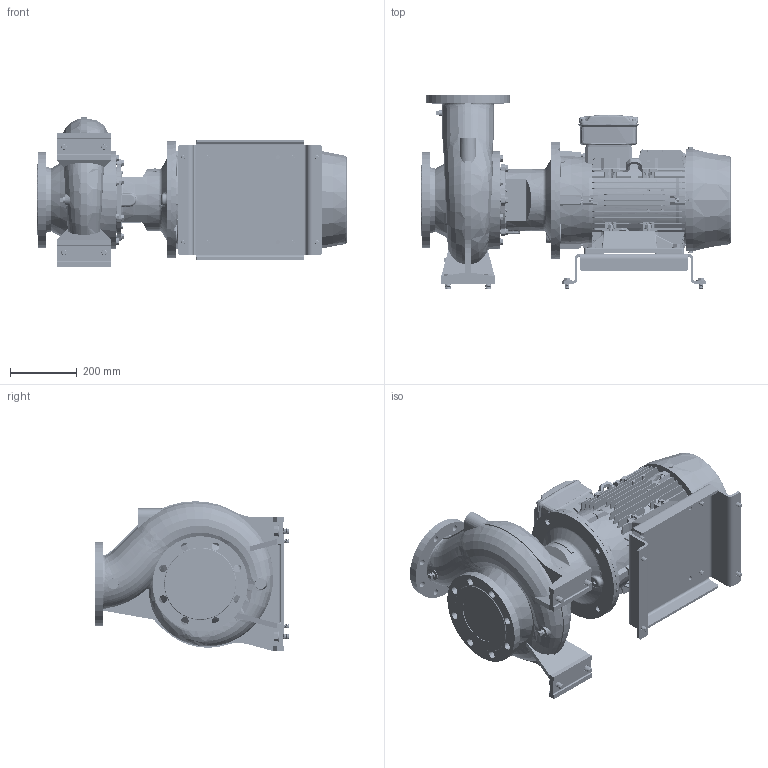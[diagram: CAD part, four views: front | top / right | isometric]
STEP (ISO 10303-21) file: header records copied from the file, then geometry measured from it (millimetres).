
FILE_DESCRIPTION (( 'STEP AP214' ), '1' );
FILE_NAME ('GSD4 125-200_11.0 & 15.0_(160ML)_W21.STEP', '2026-07-01T05:12:52', ( '' ), ( '' ), 'SwSTEP 2.0', 'SolidWorks 2024', '' );
FILE_SCHEMA (( 'AUTOMOTIVE_DESIGN' ));
Length unit declared in the file: millimetre
Products named in the file (12): CGS11-5254; 125-200-160M_L_ﾃﾞﾌｫﾙﾄ; 160M_L_ALIE3_W21T_B35; Parametric bolt and washer_SFT-A353B; Parametric bolt and washer_SFT-A303B; Parametric bolt_SFT-A353B; Parametric bolt_SFT-A297B; Parametric Flat Washer_M16; Parametric Flat Washer_M12; Parametric bolt and washer_SFT-A297B; GSD4 125-200_11.0 & 15.0_(160ML)_W21; Parametric bolt_SFT-A303B
Assembly tree (21 placements, depth 3):
  GSD4 125-200_11.0 & 15.0_(160ML)_W21
    125-200-160M_L_ﾃﾞﾌｫﾙﾄ
    CGS11-5254
    Parametric bolt and washer_SFT-A353B  x4
      Parametric bolt_SFT-A353B
      Parametric Flat Washer_M16
    Parametric bolt and washer_SFT-A297B  x4
      Parametric bolt_SFT-A297B
      Parametric Flat Washer_M12
    Parametric bolt and washer_SFT-A303B  x4
      Parametric bolt_SFT-A303B
      Parametric Flat Washer_M12
    160M_L_ALIE3_W21T_B35
Bounding box: 925.3 x 581 x 446.71 mm (x, y, z)
Volume: 63038866.9 mm3; surface area: 3643988.3 mm2
Topology: 57 solids, 63 shells, 6367 faces, 16432 edges, 10637 vertices
Faces by surface type: plane 3768, cylinder 1289, cone 609, bspline 464, torus 221, sphere 16
Entity records: 246149 total; most frequent: CARTESIAN_POINT 110156, ORIENTED_EDGE 29840, DIRECTION 25132, EDGE_CURVE 14920, VERTEX_POINT 9668, LINE 9468, VECTOR 9468, AXIS2_PLACEMENT_3D 7832
